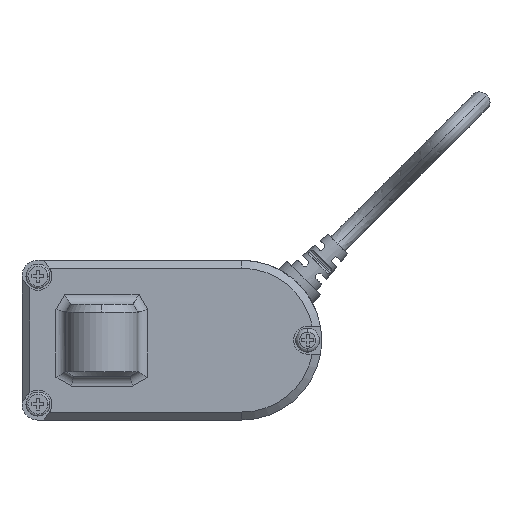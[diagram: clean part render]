
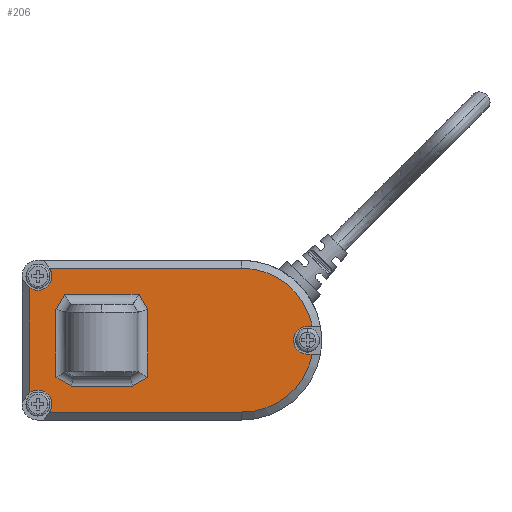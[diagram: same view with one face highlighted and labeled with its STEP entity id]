
A CAD part, left-side view. The second image highlights one B-rep face of the part: STEP entity #206.
In plain terms, the highlighted planar face has unit normal (-1, 0, 0).
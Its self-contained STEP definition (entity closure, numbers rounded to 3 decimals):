
#206=ADVANCED_FACE('',(#730,#731),#732,.F.);
#730=FACE_OUTER_BOUND('',#1996,.T.);
#731=FACE_BOUND('',#1997,.T.);
#732=PLANE('',#1998);
#1996=EDGE_LOOP('',(#4317,#4318,#4319,#4320,#4321,#4322,#4323,#4324,#4325,#4326,#4327,#4328));
#1997=EDGE_LOOP('',(#4329,#4330,#4331,#4332,#4333,#4334,#4335,#4336));
#1998=AXIS2_PLACEMENT_3D('',#4337,#4338,#4339);
#4317=ORIENTED_EDGE('',*,*,#6775,.F.);
#4318=ORIENTED_EDGE('',*,*,#6801,.F.);
#4319=ORIENTED_EDGE('',*,*,#6796,.F.);
#4320=ORIENTED_EDGE('',*,*,#6452,.F.);
#4321=ORIENTED_EDGE('',*,*,#6802,.F.);
#4322=ORIENTED_EDGE('',*,*,#6803,.F.);
#4323=ORIENTED_EDGE('',*,*,#6791,.F.);
#4324=ORIENTED_EDGE('',*,*,#6786,.F.);
#4325=ORIENTED_EDGE('',*,*,#6784,.F.);
#4326=ORIENTED_EDGE('',*,*,#6804,.F.);
#4327=ORIENTED_EDGE('',*,*,#6805,.F.);
#4328=ORIENTED_EDGE('',*,*,#6557,.F.);
#4329=ORIENTED_EDGE('',*,*,#6743,.F.);
#4330=ORIENTED_EDGE('',*,*,#6742,.F.);
#4331=ORIENTED_EDGE('',*,*,#6740,.F.);
#4332=ORIENTED_EDGE('',*,*,#6738,.F.);
#4333=ORIENTED_EDGE('',*,*,#6736,.F.);
#4334=ORIENTED_EDGE('',*,*,#6734,.F.);
#4335=ORIENTED_EDGE('',*,*,#6731,.F.);
#4336=ORIENTED_EDGE('',*,*,#6745,.F.);
#4337=CARTESIAN_POINT('',(-17.0,20.0,0.0));
#4338=DIRECTION('',(1.0,0.,0.0));
#4339=DIRECTION('',(0.,-1.0,0.0));
#6452=EDGE_CURVE('',#7546,#7540,#7548,.T.);
#6557=EDGE_CURVE('',#7744,#7746,#7747,.T.);
#6731=EDGE_CURVE('',#8029,#8031,#8032,.T.);
#6734=EDGE_CURVE('',#8031,#8034,#8036,.T.);
#6736=EDGE_CURVE('',#8034,#8037,#8039,.T.);
#6738=EDGE_CURVE('',#8037,#8040,#8042,.T.);
#6740=EDGE_CURVE('',#8040,#8043,#8045,.T.);
#6742=EDGE_CURVE('',#8043,#8046,#8048,.T.);
#6743=EDGE_CURVE('',#8046,#8049,#8050,.T.);
#6745=EDGE_CURVE('',#8049,#8029,#8052,.T.);
#6775=EDGE_CURVE('',#8095,#7744,#8097,.T.);
#6784=EDGE_CURVE('',#8111,#8104,#8113,.T.);
#6786=EDGE_CURVE('',#8104,#8116,#8117,.T.);
#6791=EDGE_CURVE('',#8116,#8120,#8125,.T.);
#6796=EDGE_CURVE('',#7540,#8132,#8133,.T.);
#6801=EDGE_CURVE('',#8132,#8095,#8140,.T.);
#6802=EDGE_CURVE('',#8141,#7546,#8142,.T.);
#6803=EDGE_CURVE('',#8120,#8141,#8143,.T.);
#6804=EDGE_CURVE('',#8144,#8111,#8145,.T.);
#6805=EDGE_CURVE('',#7746,#8144,#8146,.T.);
#7540=VERTEX_POINT('',#9274);
#7546=VERTEX_POINT('',#9282);
#7548=CIRCLE('',#9294,3.5);
#7744=VERTEX_POINT('',#9819);
#7746=VERTEX_POINT('',#9822);
#7747=CIRCLE('',#9823,3.5);
#8029=VERTEX_POINT('',#10361);
#8031=VERTEX_POINT('',#10373);
#8032=LINE('',#10374,#10375);
#8034=VERTEX_POINT('',#10387);
#8036=LINE('',#10399,#10400);
#8037=VERTEX_POINT('',#10401);
#8039=LINE('',#10413,#10414);
#8040=VERTEX_POINT('',#10415);
#8042=LINE('',#10427,#10428);
#8043=VERTEX_POINT('',#10429);
#8045=LINE('',#10441,#10442);
#8046=VERTEX_POINT('',#10443);
#8048=LINE('',#10455,#10456);
#8049=VERTEX_POINT('',#10457);
#8050=LINE('',#10458,#10459);
#8052=LINE('',#10471,#10472);
#8095=VERTEX_POINT('',#10700);
#8097=CIRCLE('',#10712,3.5);
#8104=VERTEX_POINT('',#10722);
#8111=VERTEX_POINT('',#10732);
#8113=LINE('',#10737,#10738);
#8116=VERTEX_POINT('',#10741);
#8117=CIRCLE('',#10742,3.5);
#8120=VERTEX_POINT('',#10746);
#8125=LINE('',#10756,#10757);
#8132=VERTEX_POINT('',#10767);
#8133=CIRCLE('',#10768,3.5);
#8140=LINE('',#10786,#10787);
#8141=VERTEX_POINT('',#10788);
#8142=LINE('',#10789,#10790);
#8143=CIRCLE('',#10791,18.);
#8144=VERTEX_POINT('',#10792);
#8145=CIRCLE('',#10793,18.);
#8146=LINE('',#10794,#10795);
#9274=CARTESIAN_POINT('',(-17.0,16.0,-12.5));
#9282=CARTESIAN_POINT('',(-17.,13.128,-18.));
#9294=AXIS2_PLACEMENT_3D('',#13442,#13443,#13444);
#9819=CARTESIAN_POINT('',(-17.0,16.0,12.5));
#9822=CARTESIAN_POINT('',(-17.0,13.128,18.0));
#9823=AXIS2_PLACEMENT_3D('',#13598,#13599,#13600);
#10361=CARTESIAN_POINT('',(-17.0,-9.289,11.5));
#10373=CARTESIAN_POINT('',(-17.0,9.289,11.5));
#10374=CARTESIAN_POINT('',(-17.0,20.0,11.5));
#10375=VECTOR('',#13777,1000.0);
#10387=CARTESIAN_POINT('',(-17.0,11.5,7.67));
#10399=CARTESIAN_POINT('',(-17.0,9.289,11.5));
#10400=VECTOR('',#13778,1000.0);
#10401=CARTESIAN_POINT('',(-17.0,11.5,-9.289));
#10413=CARTESIAN_POINT('',(-17.0,11.5,0.0));
#10414=VECTOR('',#13779,1000.0);
#10415=CARTESIAN_POINT('',(-17.0,7.67,-11.5));
#10427=CARTESIAN_POINT('',(-17.0,11.5,-9.289));
#10428=VECTOR('',#13780,1000.0);
#10429=CARTESIAN_POINT('',(-17.0,-7.67,-11.5));
#10441=CARTESIAN_POINT('',(-17.0,20.0,-11.5));
#10442=VECTOR('',#13781,1000.0);
#10443=CARTESIAN_POINT('',(-17.0,-11.5,-9.289));
#10455=CARTESIAN_POINT('',(-17.0,-7.67,-11.5));
#10456=VECTOR('',#13782,1000.0);
#10457=CARTESIAN_POINT('',(-17.0,-11.5,7.67));
#10458=CARTESIAN_POINT('',(-17.0,-11.5,0.0));
#10459=VECTOR('',#13783,1000.0);
#10471=CARTESIAN_POINT('',(-17.0,-11.5,7.67));
#10472=VECTOR('',#13784,1000.0);
#10700=CARTESIAN_POINT('',(-17.0,18.0,13.128));
#10712=AXIS2_PLACEMENT_3D('',#13799,#13800,#13801);
#10722=CARTESIAN_POINT('',(-17.,-51.47,3.5));
#10732=CARTESIAN_POINT('',(-17.,-52.656,3.5));
#10737=CARTESIAN_POINT('',(-17.0,20.0,3.5));
#10738=VECTOR('',#13811,1000.0);
#10741=CARTESIAN_POINT('',(-17.,-51.47,-3.5));
#10742=AXIS2_PLACEMENT_3D('',#13815,#13816,#13817);
#10746=CARTESIAN_POINT('',(-17.,-52.656,-3.5));
#10756=CARTESIAN_POINT('',(-17.0,20.0,-3.5));
#10757=VECTOR('',#13821,1000.0);
#10767=CARTESIAN_POINT('',(-17.0,18.0,-13.128));
#10768=AXIS2_PLACEMENT_3D('',#13828,#13829,#13830);
#10786=CARTESIAN_POINT('',(-17.0,18.0,0.0));
#10787=VECTOR('',#13838,1000.0);
#10788=CARTESIAN_POINT('',(-17.,-35.,-18.));
#10789=CARTESIAN_POINT('',(-17.,-9.5,-18.));
#10790=VECTOR('',#13839,1000.0);
#10791=AXIS2_PLACEMENT_3D('',#13840,#13841,#13842);
#10792=CARTESIAN_POINT('',(-17.,-35.0,18.));
#10793=AXIS2_PLACEMENT_3D('',#13843,#13844,#13845);
#10794=CARTESIAN_POINT('',(-17.0,-9.5,18.0));
#10795=VECTOR('',#13846,1000.0);
#13442=CARTESIAN_POINT('',(-17.0,16.0,-16.0));
#13443=DIRECTION('',(-1.0,0.,-0.0));
#13444=DIRECTION('',(0.0,0.0,-1.0));
#13598=CARTESIAN_POINT('',(-17.0,16.0,16.0));
#13599=DIRECTION('',(-1.0,0.,-0.0));
#13600=DIRECTION('',(0.0,0.0,-1.0));
#13777=DIRECTION('',(0.,1.0,0.0));
#13778=DIRECTION('',(0.,0.5,-0.866));
#13779=DIRECTION('',(0.0,0.0,-1.0));
#13780=DIRECTION('',(0.,-0.866,-0.5));
#13781=DIRECTION('',(0.,-1.0,0.0));
#13782=DIRECTION('',(0.,-0.866,0.5));
#13783=DIRECTION('',(0.0,0.0,1.0));
#13784=DIRECTION('',(0.,0.5,0.866));
#13799=CARTESIAN_POINT('',(-17.0,16.0,16.0));
#13800=DIRECTION('',(-1.0,0.,-0.0));
#13801=DIRECTION('',(0.0,0.0,-1.0));
#13811=DIRECTION('',(0.,1.0,0.0));
#13815=CARTESIAN_POINT('',(-17.,-51.47,0.0));
#13816=DIRECTION('',(-1.0,0.,-0.0));
#13817=DIRECTION('',(0.0,0.0,-1.0));
#13821=DIRECTION('',(0.,-1.0,0.0));
#13828=CARTESIAN_POINT('',(-17.0,16.0,-16.0));
#13829=DIRECTION('',(-1.0,0.,-0.0));
#13830=DIRECTION('',(0.0,0.0,-1.0));
#13838=DIRECTION('',(0.0,0.0,1.0));
#13839=DIRECTION('',(0.,1.0,0.0));
#13840=CARTESIAN_POINT('',(-17.,-35.0,0.0));
#13841=DIRECTION('',(1.0,0.,0.0));
#13842=DIRECTION('',(0.,1.0,0.0));
#13843=CARTESIAN_POINT('',(-17.,-35.0,0.));
#13844=DIRECTION('',(1.0,0.,0.));
#13845=DIRECTION('',(0.,0.,1.0));
#13846=DIRECTION('',(0.,-1.0,0.0));
